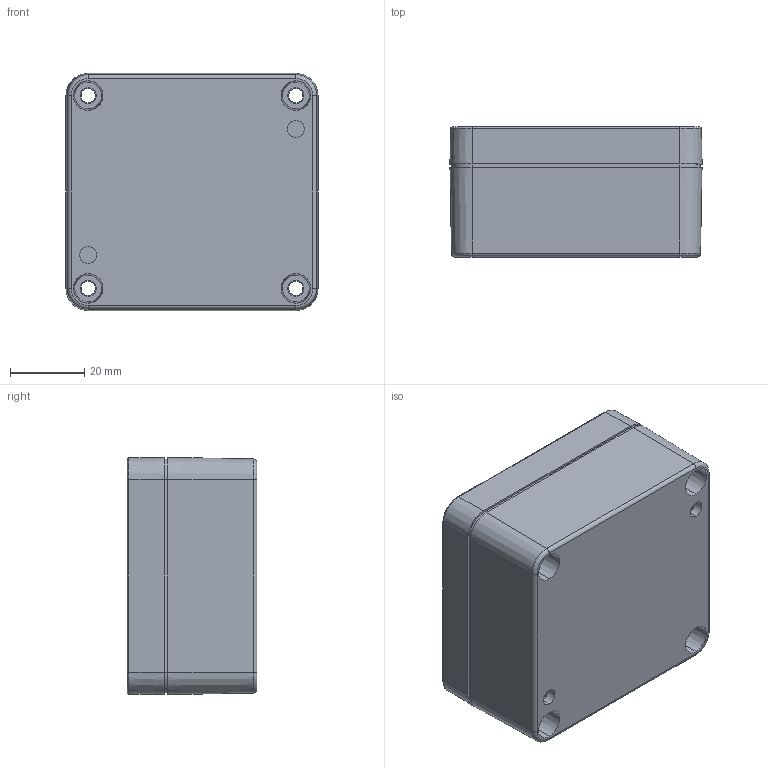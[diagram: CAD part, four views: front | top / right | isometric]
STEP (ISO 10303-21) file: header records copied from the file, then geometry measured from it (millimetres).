
FILE_DESCRIPTION (( 'STEP AP203' ), '1' );
FILE_NAME ('PE205.STEP', '2016-10-13T10:44:12', ( '' ), ( '' ), 'SwSTEP 2.0', 'SolidWorks 2015', '' );
FILE_SCHEMA (( 'CONFIG_CONTROL_DESIGN' ));
Length unit declared in the file: millimetre
Products named in the file (3): PE205
Assembly tree (2 placements, depth 2):
  PE205
    PE205
    PE205
Bounding box: 68 x 35 x 64 mm (x, y, z)
Volume: 49604.2 mm3; surface area: 40382.5 mm2
Topology: 2 solids, 2 shells, 330 faces, 836 edges, 552 vertices
Faces by surface type: plane 138, cone 104, cylinder 76, torus 8, bspline 4
Entity records: 10714 total; most frequent: CARTESIAN_POINT 2120, DIRECTION 1830, ORIENTED_EDGE 1672, EDGE_CURVE 836, AXIS2_PLACEMENT_3D 699, VERTEX_POINT 552, LINE 432, VECTOR 432
